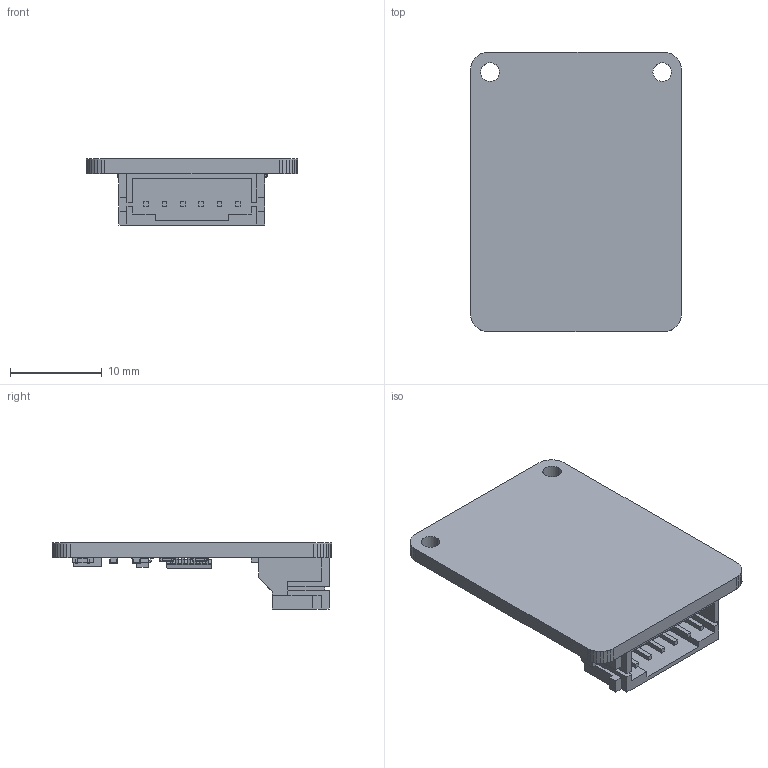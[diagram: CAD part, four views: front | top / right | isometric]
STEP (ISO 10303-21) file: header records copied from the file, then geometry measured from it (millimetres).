
FILE_DESCRIPTION((''),'2;1');
FILE_NAME('AS7341_SPECTRAL_COLOR_SENSOR_ASM','2023-11-23T17:29:28',('xiaojisheng'),(''),'CREO PARAMETRIC BY PTC INC, 2021063','CREO PARAMETRIC BY PTC INC, 2021063','');
FILE_SCHEMA(('CONFIG_CONTROL_DESIGN','SHAPE_APPEARANCE_LAYERS_GROUPS'));
Length unit declared in the file: millimetre
Products named in the file (39): BOARD; USER_LIBRARY-TSSOP-14__X2_041A0; USER_LIBRARY-TSSOP-14__X2_041C0; USER_LIBRARY-TSSOP-14__X2_041_1; USER_LIBRARY-TSSOP-14__X2_041_2; USER_LIBRARY-TSSOP-14__X2_041D0_ASM; TSSOP-14_ASM; U3_ASM; SW3DPS-SOT-23-5-DEFAULT; U2_ASM; RESC1608_0603_; R10_ASM; R9_ASM; R8_ASM; R6_ASM; R5_ASM; R4_ASM; R3_ASM; R2_ASM; R1_ASM; EXTRUDED-14423; 904992320_ASM; EXTRUDED-14800; 904992064_ASM; EXTRUDED-15172; 992733344_ASM; D2_ASM; D1_ASM; CAPC1608_0603_; C11_ASM; C10_ASM; C9_ASM; C8_ASM; C7_ASM; C6_ASM; PCB_ASM; HP2_0-6PIN-SMT; AS7341; AS7341_SPECTRAL_COLOR_SENSOR_ASM
Assembly tree (62 placements, depth 6):
  AS7341_SPECTRAL_COLOR_SENSOR_ASM
    PCB_ASM
      BOARD
      U3_ASM
        TSSOP-14_ASM
          USER_LIBRARY-TSSOP-14__X2_041A0
          USER_LIBRARY-TSSOP-14__X2_041C0
          USER_LIBRARY-TSSOP-14__X2_041D0_ASM  x7
            USER_LIBRARY-TSSOP-14__X2_041_1
            USER_LIBRARY-TSSOP-14__X2_041_2
      U2_ASM
        SW3DPS-SOT-23-5-DEFAULT
      R10_ASM
        RESC1608_0603_
      R9_ASM
        RESC1608_0603_
      R8_ASM
        RESC1608_0603_
      R6_ASM
        RESC1608_0603_
      R5_ASM
        RESC1608_0603_
      R4_ASM
        RESC1608_0603_
      R3_ASM
        RESC1608_0603_
      R2_ASM
        RESC1608_0603_
      R1_ASM
        RESC1608_0603_
      D2_ASM
        904992320_ASM  x2
          EXTRUDED-14423
        904992064_ASM
          EXTRUDED-14800
        992733344_ASM
          EXTRUDED-15172
      D1_ASM
        904992320_ASM  x2
          EXTRUDED-14423
        904992064_ASM
          EXTRUDED-14800
        992733344_ASM
          EXTRUDED-15172
      C11_ASM
        CAPC1608_0603_
      C10_ASM
        CAPC1608_0603_
      C9_ASM
        CAPC1608_0603_
      C8_ASM
        CAPC1608_0603_
      C7_ASM
        CAPC1608_0603_
      C6_ASM
        CAPC1608_0603_
    HP2_0-6PIN-SMT
    AS7341
Bounding box: 23.02 x 30.52 x 7.2 mm (x, y, z)
Volume: 1446.9 mm3; surface area: 2517.1 mm2
Topology: 43 solids, 43 shells, 1159 faces, 2751 edges, 1578 vertices
Faces by surface type: plane 647, cylinder 392, sphere 120
Entity records: 16581 total; most frequent: DIRECTION 2279, CARTESIAN_POINT 2198, ORIENTED_EDGE 2002, PRESENTATION_STYLE_ASSIGNMENT 1076, STYLED_ITEM 1014, CURVE_STYLE 1001, EDGE_CURVE 1001, VECTOR 841
